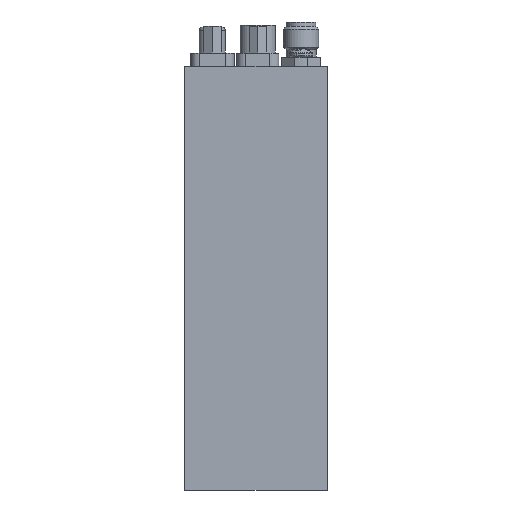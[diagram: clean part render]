
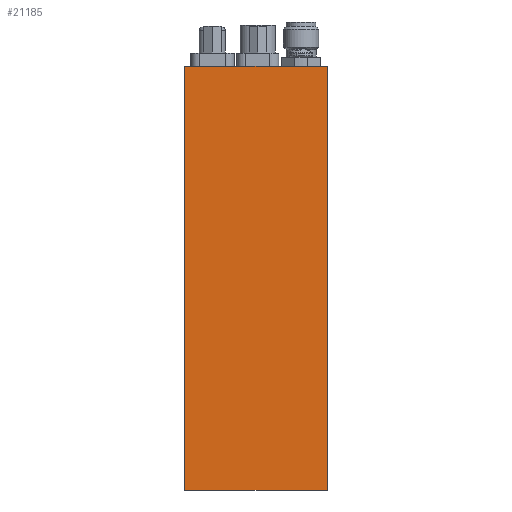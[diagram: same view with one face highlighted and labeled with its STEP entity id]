
A CAD part, left-side view. The second image highlights one B-rep face of the part: STEP entity #21185.
In plain terms, the highlighted planar face has unit normal (-1, 0, 0).
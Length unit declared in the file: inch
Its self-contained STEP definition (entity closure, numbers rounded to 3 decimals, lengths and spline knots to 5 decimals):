
#22 = FACE_OUTER_BOUND ( 'NONE', #15182, .T. ) ;
#573 = ORIENTED_EDGE ( 'NONE', *, *, #6695, .F. ) ;
#1905 = VERTEX_POINT ( 'NONE', #16538 ) ;
#2573 = VECTOR ( 'NONE', #5851, 39.37008 ) ;
#3112 = DIRECTION ( 'NONE',  ( 0., 0., 1. ) ) ;
#3458 = CARTESIAN_POINT ( 'NONE',  ( -1.24135, 0.70771, -1.26272 ) ) ;
#3606 = ORIENTED_EDGE ( 'NONE', *, *, #3912, .F. ) ;
#3658 = CARTESIAN_POINT ( 'NONE',  ( -1.24135, 0.70771, -1.26272 ) ) ;
#3912 = EDGE_CURVE ( 'NONE', #24729, #28508, #21086, .T. ) ;
#5851 = DIRECTION ( 'NONE',  ( 0., -1., 0. ) ) ;
#5891 = DIRECTION ( 'NONE',  ( 1., 0., 0. ) ) ;
#6695 = EDGE_CURVE ( 'NONE', #1905, #24729, #25581, .T. ) ;
#7103 = EDGE_CURVE ( 'NONE', #13568, #28508, #21067, .T. ) ;
#7872 = CARTESIAN_POINT ( 'NONE',  ( -1.24135, -0.30429, -1.26272 ) ) ;
#9969 = EDGE_CURVE ( 'NONE', #1905, #13568, #19151, .T. ) ;
#12322 = ORIENTED_EDGE ( 'NONE', *, *, #7103, .T. ) ;
#13137 = VECTOR ( 'NONE', #28745, 39.37008 ) ;
#13568 = VERTEX_POINT ( 'NONE', #7872 ) ;
#13642 = VECTOR ( 'NONE', #3112, 39.37008 ) ;
#13981 = AXIS2_PLACEMENT_3D ( 'NONE', #3458, #5891, #21951 ) ;
#15182 = EDGE_LOOP ( 'NONE', ( #12322, #3606, #573, #24439 ) ) ;
#16538 = CARTESIAN_POINT ( 'NONE',  ( -1.24135, 0.70771, -1.26272 ) ) ;
#17425 = PLANE ( 'NONE',  #13981 ) ;
#18122 = CARTESIAN_POINT ( 'NONE',  ( -1.24135, 0.70771, -1.26272 ) ) ;
#19151 = LINE ( 'NONE', #18122, #13137 ) ;
#19814 = CARTESIAN_POINT ( 'NONE',  ( -1.24135, 0.70771, 1.73728 ) ) ;
#21067 = LINE ( 'NONE', #25866, #26246 ) ;
#21086 = LINE ( 'NONE', #19814, #2573 ) ;
#21185 = ADVANCED_FACE ( 'NONE', ( #22 ), #17425, .F. ) ;
#21951 = DIRECTION ( 'NONE',  ( 0., 0., -1. ) ) ;
#24439 = ORIENTED_EDGE ( 'NONE', *, *, #9969, .T. ) ;
#24729 = VERTEX_POINT ( 'NONE', #28131 ) ;
#25391 = DIRECTION ( 'NONE',  ( 0., 0., 1. ) ) ;
#25581 = LINE ( 'NONE', #3658, #13642 ) ;
#25866 = CARTESIAN_POINT ( 'NONE',  ( -1.24135, -0.30429, -1.26272 ) ) ;
#26246 = VECTOR ( 'NONE', #25391, 39.37008 ) ;
#28131 = CARTESIAN_POINT ( 'NONE',  ( -1.24135, 0.70771, 1.73728 ) ) ;
#28508 = VERTEX_POINT ( 'NONE', #29137 ) ;
#28745 = DIRECTION ( 'NONE',  ( 0., -1., 0. ) ) ;
#29137 = CARTESIAN_POINT ( 'NONE',  ( -1.24135, -0.30429, 1.73728 ) ) ;
